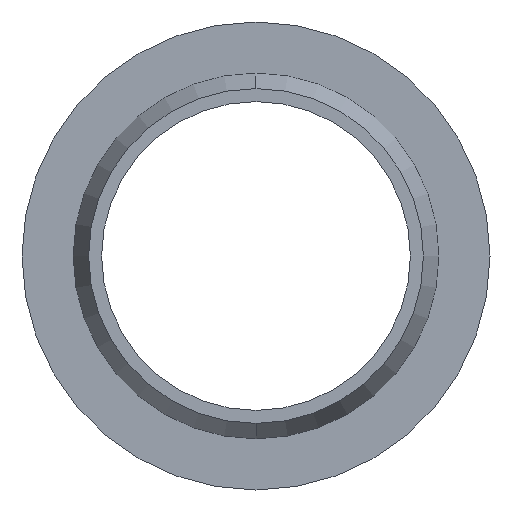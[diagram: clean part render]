
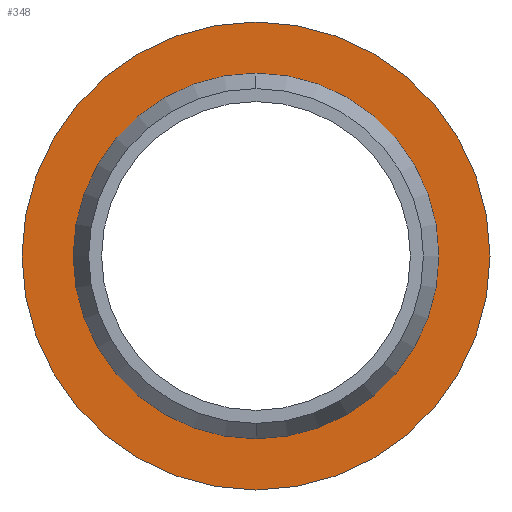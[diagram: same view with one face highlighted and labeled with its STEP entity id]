
A CAD part, left-side view. The second image highlights one B-rep face of the part: STEP entity #348.
In plain terms, the highlighted planar face has unit normal (-1, 0, 0).
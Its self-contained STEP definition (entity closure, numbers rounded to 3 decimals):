
#76 = AXIS2_PLACEMENT_3D ( 'NONE', #78, #77, #82 ) ;
#77 = DIRECTION ( 'NONE',  ( -1., 0., 0. ) ) ;
#78 = CARTESIAN_POINT ( 'NONE',  ( 2., 0., 0. ) ) ;
#82 = DIRECTION ( 'NONE',  ( 0., 0., 1. ) ) ;
#98 = CIRCLE ( 'NONE', #76, 11.25 ) ;
#109 = CARTESIAN_POINT ( 'NONE',  ( 2., 0., 11.25 ) ) ;
#119 = CARTESIAN_POINT ( 'NONE',  ( 2., 0., 14.4 ) ) ;
#137 = DIRECTION ( 'NONE',  ( -1., 0., 0. ) ) ;
#138 = CARTESIAN_POINT ( 'NONE',  ( 2., 0., 0. ) ) ;
#141 = CARTESIAN_POINT ( 'NONE',  ( 2., 0., 0. ) ) ;
#146 = DIRECTION ( 'NONE',  ( 0., 0., 1. ) ) ;
#149 = CIRCLE ( 'NONE', #167, 14.4 ) ;
#160 = CARTESIAN_POINT ( 'NONE',  ( 2., 0., -11.25 ) ) ;
#167 = AXIS2_PLACEMENT_3D ( 'NONE', #138, #177, #146 ) ;
#172 = AXIS2_PLACEMENT_3D ( 'NONE', #141, #137, #180 ) ;
#173 = CIRCLE ( 'NONE', #172, 14.4 ) ;
#177 = DIRECTION ( 'NONE',  ( -1., 0., 0. ) ) ;
#180 = DIRECTION ( 'NONE',  ( 0., 0., 1. ) ) ;
#205 = DIRECTION ( 'NONE',  ( 0., 0., 1. ) ) ;
#233 = FACE_OUTER_BOUND ( 'NONE', #349, .T. ) ;
#234 = FACE_BOUND ( 'NONE', #341, .T. ) ;
#270 = VERTEX_POINT ( 'NONE', #303 ) ;
#274 = DIRECTION ( 'NONE',  ( -1., 0., 0. ) ) ;
#275 = CARTESIAN_POINT ( 'NONE',  ( 2., 0., 0. ) ) ;
#276 = AXIS2_PLACEMENT_3D ( 'NONE', #275, #274, #205 ) ;
#277 = DIRECTION ( 'NONE',  ( 0., 0., -1. ) ) ;
#278 = DIRECTION ( 'NONE',  ( 1., 0., 0. ) ) ;
#279 = CARTESIAN_POINT ( 'NONE',  ( 2., 14.4, 0. ) ) ;
#280 = CIRCLE ( 'NONE', #276, 11.25 ) ;
#281 = PLANE ( 'NONE',  #312 ) ;
#303 = CARTESIAN_POINT ( 'NONE',  ( 2., 0., -14.4 ) ) ;
#312 = AXIS2_PLACEMENT_3D ( 'NONE', #279, #278, #277 ) ;
#336 = ORIENTED_EDGE ( 'NONE', *, *, #388, .T. ) ;
#341 = EDGE_LOOP ( 'NONE', ( #346, #350 ) ) ;
#344 = EDGE_CURVE ( 'NONE', #407, #409, #280, .T. ) ;
#346 = ORIENTED_EDGE ( 'NONE', *, *, #344, .F. ) ;
#347 = ORIENTED_EDGE ( 'NONE', *, *, #387, .T. ) ;
#348 = ADVANCED_FACE ( 'NONE', ( #234, #233 ), #281, .F. ) ;
#349 = EDGE_LOOP ( 'NONE', ( #347, #336 ) ) ;
#350 = ORIENTED_EDGE ( 'NONE', *, *, #413, .F. ) ;
#386 = VERTEX_POINT ( 'NONE', #119 ) ;
#387 = EDGE_CURVE ( 'NONE', #386, #270, #149, .T. ) ;
#388 = EDGE_CURVE ( 'NONE', #270, #386, #173, .T. ) ;
#407 = VERTEX_POINT ( 'NONE', #160 ) ;
#409 = VERTEX_POINT ( 'NONE', #109 ) ;
#413 = EDGE_CURVE ( 'NONE', #409, #407, #98, .T. ) ;
